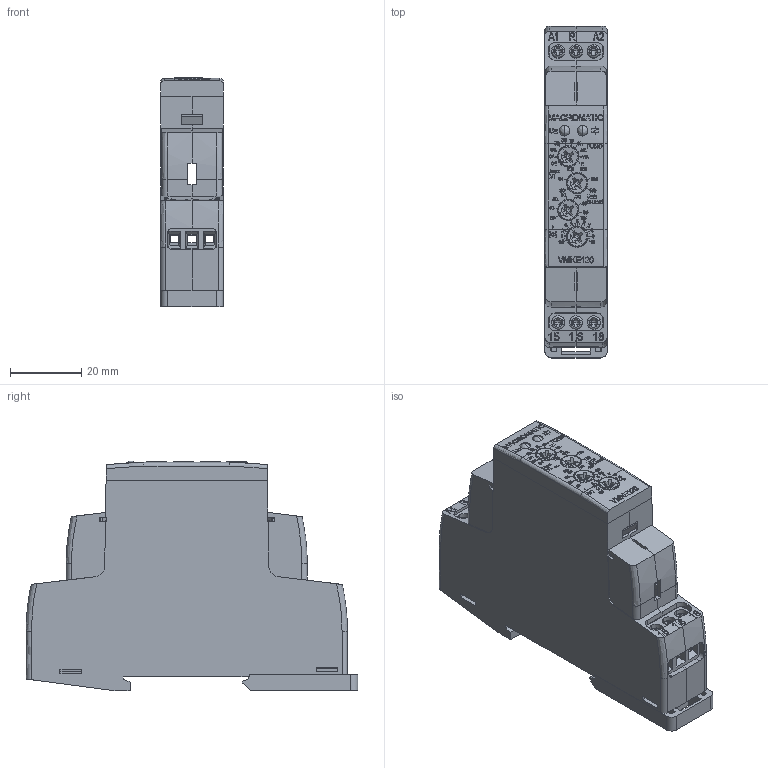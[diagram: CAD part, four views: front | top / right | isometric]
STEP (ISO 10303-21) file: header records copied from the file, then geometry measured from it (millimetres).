
FILE_DESCRIPTION(('FreeCAD Model'),'2;1');
FILE_NAME('Open CASCADE Shape Model','2025-03-12T21:02:45',('Author'),( ''),'Open CASCADE STEP processor 7.6','FreeCAD','Unknown');
FILE_SCHEMA(('AUTOMOTIVE_DESIGN { 1 0 10303 214 1 1 1 1 }'));
Length unit declared in the file: millimetre
Products named in the file (208): Document; COMPOUND014; COMPOUND; COMPOUND001; COMPOUND002; COMPOUND003; COMPOUND004; COMPOUND005; COMPOUND006; COMPOUND007; COMPOUND008; COMPOUND009; COMPOUND010; COMPOUND011; COMPOUND012; COMPOUND013; COMPOUND206; COMPOUND015; COMPOUND016; COMPOUND017; COMPOUND018; COMPOUND019; COMPOUND020; COMPOUND021; COMPOUND022; COMPOUND023; COMPOUND024; COMPOUND025; COMPOUND026; COMPOUND027; COMPOUND028; COMPOUND029; COMPOUND030; COMPOUND031; COMPOUND032; COMPOUND033; COMPOUND034; COMPOUND035; COMPOUND036; COMPOUND037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
Assembly tree (207 placements, depth 3):
  Document
    COMPOUND014
      COMPOUND
      COMPOUND001
      COMPOUND002
      COMPOUND003
      COMPOUND004
      COMPOUND005
      COMPOUND006
      COMPOUND007
      COMPOUND008
      COMPOUND009
      COMPOUND010
      COMPOUND011
      COMPOUND012
      COMPOUND013
    COMPOUND206
      COMPOUND015
      COMPOUND016
      COMPOUND017
      COMPOUND018
      COMPOUND019
      COMPOUND020
      COMPOUND021
      COMPOUND022
      COMPOUND023
      COMPOUND024
      COMPOUND025
      COMPOUND026
      COMPOUND027
      COMPOUND028
      COMPOUND029
      COMPOUND030
      COMPOUND031
      COMPOUND032
      COMPOUND033
      COMPOUND034
      COMPOUND035
      COMPOUND036
      COMPOUND037
      COMPOUND038
      COMPOUND039
      COMPOUND040
      COMPOUND041
      COMPOUND042
      COMPOUND043
      COMPOUND044
      COMPOUND045
      COMPOUND046
      COMPOUND047
      COMPOUND048
      COMPOUND049
      COMPOUND050
      COMPOUND051
      COMPOUND052
      COMPOUND053
      COMPOUND054
      COMPOUND055
      COMPOUND056
      COMPOUND057
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Bounding box: 17.6 x 92.95 x 64.4 mm (x, y, z)
Volume: 19876.1 mm3; surface area: 36463.2 mm2
Topology: 14 solids, 205 shells, 1745 faces, 6083 edges, 4504 vertices
Faces by surface type: plane 1054, bspline 691
Entity records: 91016 total; most frequent: CARTESIAN_POINT 49155, ORIENTED_EDGE 10447, EDGE_CURVE 6059, B_SPLINE_CURVE_WITH_KNOTS 5061, VERTEX_POINT 4504, DIRECTION 2524, FACE_BOUND 1860, EDGE_LOOP 1860
